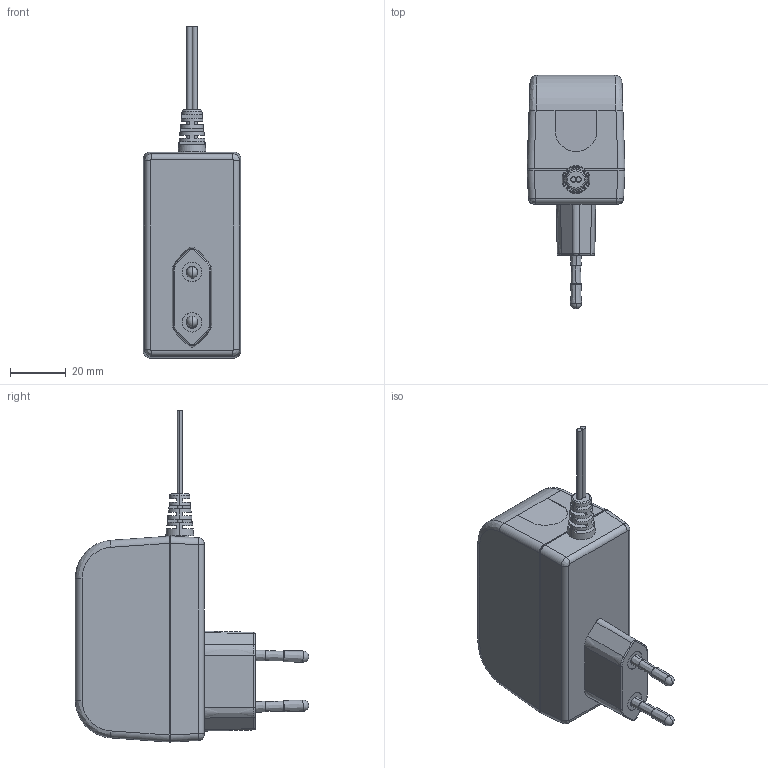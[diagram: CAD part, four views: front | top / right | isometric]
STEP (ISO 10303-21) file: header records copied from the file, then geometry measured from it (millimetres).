
FILE_DESCRIPTION((''),'2;1');
FILE_NAME('20PFE_ASSY_ASM','2025-03-05T11:23:09',('huangjun'),(''),'CREO PARAMETRIC BY PTC INC, 2018260','CREO PARAMETRIC BY PTC INC, 2018260','');
FILE_SCHEMA(('CONFIG_CONTROL_DESIGN'));
Length unit declared in the file: millimetre
Products named in the file (6): 20W_TOP; S15_UP_BOT; UP-PIN1; EU_BOT_ASM; S15_SR; 20PFE_ASSY_ASM
Assembly tree (5 placements, depth 3):
  20PFE_ASSY_ASM
    20W_TOP
    EU_BOT_ASM
      S15_UP_BOT
      UP-PIN1
    S15_SR
Bounding box: 35 x 83.34 x 118.6 mm (x, y, z)
Volume: 34082.8 mm3; surface area: 34015.2 mm2
Topology: 4 solids, 4 shells, 663 faces, 1675 edges, 1046 vertices
Faces by surface type: plane 433, cylinder 124, bspline 58, cone 20, extrusion 12, torus 10, sphere 6
Entity records: 23672 total; most frequent: CARTESIAN_POINT 8171, ORIENTED_EDGE 3342, DIRECTION 2901, EDGE_CURVE 1671, VECTOR 1149, LINE 1137, VERTEX_POINT 1046, AXIS2_PLACEMENT_3D 876
